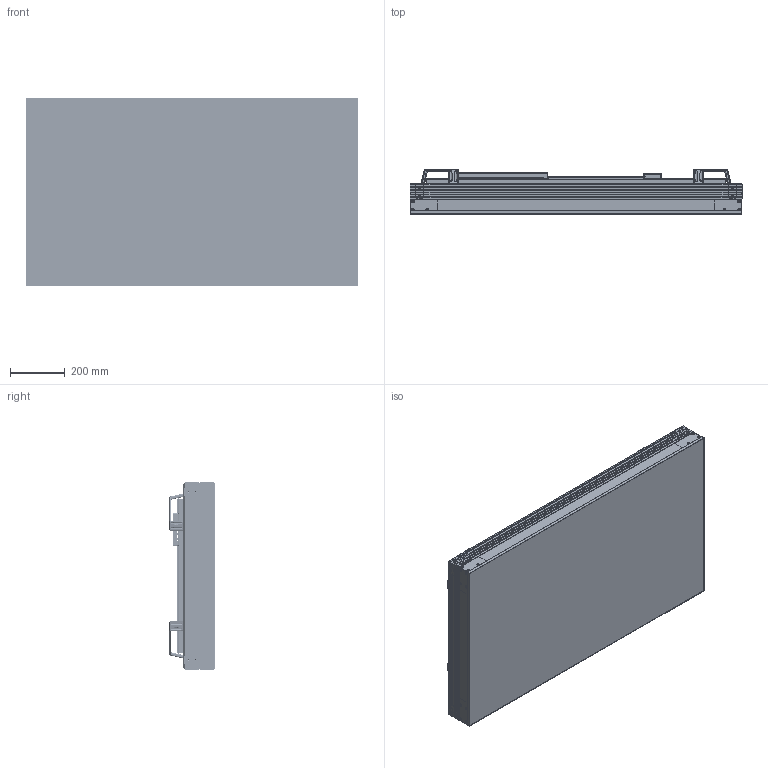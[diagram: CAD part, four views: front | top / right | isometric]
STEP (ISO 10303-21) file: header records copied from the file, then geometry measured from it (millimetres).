
FILE_DESCRIPTION (( 'STEP AP214' ), '1' );
FILE_NAME ('MT0901091-LWLR_wo_Air_Channel.STEP', '2018-10-08T12:19:21', ( '' ), ( '' ), 'SwSTEP 2.0', 'SolidWorks 2018', '' );
FILE_SCHEMA (( 'AUTOMOTIVE_DESIGN' ));
Length unit declared in the file: millimetre
Products named in the file (1): MT0901091-LWLR_wo_Air_Channel
Bounding box: 1214.44 x 165.14 x 685.24 mm (x, y, z)
Volume: 6643128.7 mm3; surface area: 5847593.7 mm2
Topology: 55 solids, 55 shells, 4192 faces, 11201 edges, 7156 vertices
Faces by surface type: plane 2255, cylinder 1550, bspline 208, cone 137, torus 42
Full cylindrical faces by diameter (mm): 2.05 x14, 2.5 x30, 3.3 x20, 3.4 x16, 4.2 x28, 4.5 x123, 5 x5, 5.4 x62, 5.41 x2, 5.5 x16, 6 x30, 6.4 x16, 6.8 x28, 7 x2, 7.5 x18, 8 x20, 8.5 x12, 9 x4, 10 x14, 10.5 x28
Entity records: 165058 total; most frequent: CARTESIAN_POINT 41712, ORIENTED_EDGE 20782, DIRECTION 20501, EDGE_CURVE 10391, VERTEX_POINT 6963, AXIS2_PLACEMENT_3D 6955, LINE 6591, VECTOR 6591
